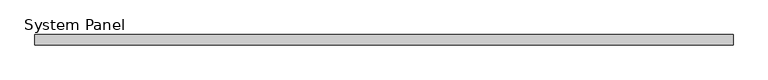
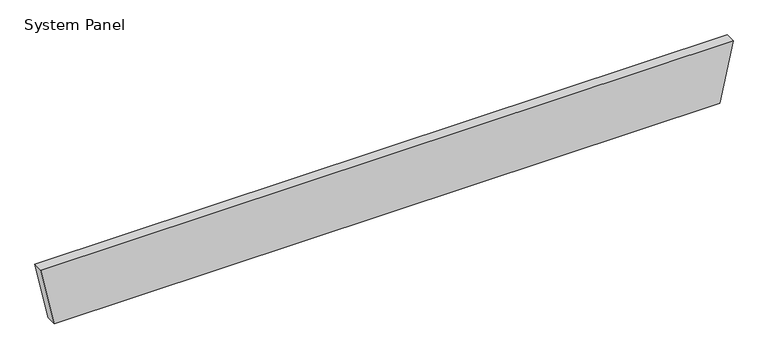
"""IFC4 building model written with IfcOpenShell, lengths in millimetres: plate geometry, System Panel : Equitilt_200mm_Plain_Surfmist."""

from ifc_helpers import new_model, si_unit, frame, origin, place, context, project, spatial, polyline, outline, extrude, source, transform, mapped, element, save


def system_panel_d2e90ea6(model_context):
    return source(origin(), model_context, "Body", "SweptSolid", [
        extrude(outline(polyline([(0.0, -6521.7433237), (0.0, 6521.7433237), (1200.0, 6782.6149856), (1200.0, -6782.6149856), (0.0, -6521.7433237)])), frame((0.0, -200.0, 0.0), z_axis=(0.0, 1.0, 0.0), x_axis=(0.0, 0.0, 1.0)), (0.0, 0.0, 1.0), 200.0),
    ])


if __name__ == "__main__":
    model = new_model("IFC4")
    model_context = context("Model", 3, world=origin())
    ifc_project = project(units=[si_unit("LENGTHUNIT", "METRE", prefix="MILLI")], contexts=[model_context])
    site = spatial("IfcSite", under=ifc_project)
    building = spatial("IfcBuilding", under=site)
    placement = place(None, origin())
    system_panel_shape = system_panel_d2e90ea6(model_context)
    element("IfcPlate", 1, ObjectType="System Panel : Equitilt_200mm_Plain_Surfmist", at=placement, inside=building, context=model_context, shape_type="MappedRepresentation", body=[
        mapped(system_panel_shape, transform((0.0, 0.0, 0.0), x_axis=(1.0, 0.0, 0.0), y_axis=(0.0, 1.0, 0.0), z_axis=(0.0, 0.0, 1.0))),
    ])
    save(model, "model.ifc")
